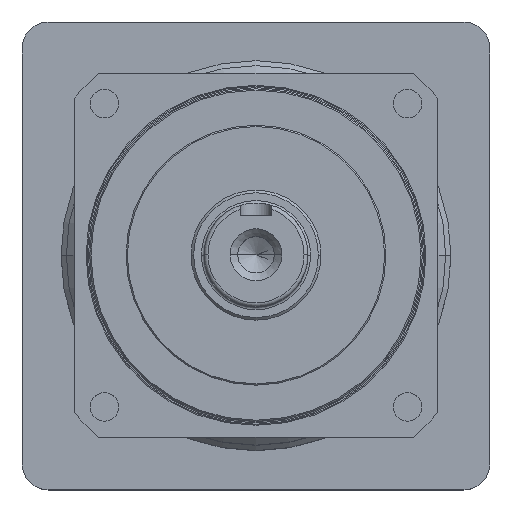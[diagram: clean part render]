
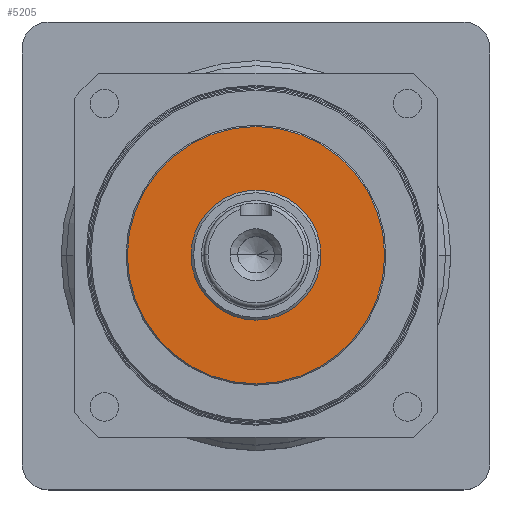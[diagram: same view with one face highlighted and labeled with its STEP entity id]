
A CAD part, top view. The second image highlights one B-rep face of the part: STEP entity #5205.
In plain terms, the highlighted planar face has unit normal (0, 0, 1).
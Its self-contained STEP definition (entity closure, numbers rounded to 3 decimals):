
#9 = DIRECTION ( 'NONE',  ( 0., 0., 1. ) ) ;
#715 = FACE_BOUND ( 'NONE', #3880, .T. ) ;
#822 = CARTESIAN_POINT ( 'NONE',  ( 0., 0., 41. ) ) ;
#1159 = DIRECTION ( 'NONE',  ( 1., 0., 0. ) ) ;
#1310 = CARTESIAN_POINT ( 'NONE',  ( 0., 0., 41. ) ) ;
#1319 = VERTEX_POINT ( 'NONE', #3957 ) ;
#1568 = AXIS2_PLACEMENT_3D ( 'NONE', #1310, #2724, #5424 ) ;
#1771 = DIRECTION ( 'NONE',  ( 0., 0., 1. ) ) ;
#1824 = CARTESIAN_POINT ( 'NONE',  ( 0., 0., 41. ) ) ;
#1856 = FACE_OUTER_BOUND ( 'NONE', #5915, .T. ) ;
#2198 = EDGE_CURVE ( 'NONE', #1319, #3922, #4513, .T. ) ;
#2578 = ORIENTED_EDGE ( 'NONE', *, *, #4733, .F. ) ;
#2724 = DIRECTION ( 'NONE',  ( 0., 0., 1. ) ) ;
#2804 = DIRECTION ( 'NONE',  ( 1., 0., 0. ) ) ;
#2940 = AXIS2_PLACEMENT_3D ( 'NONE', #5888, #3131, #3594 ) ;
#3050 = AXIS2_PLACEMENT_3D ( 'NONE', #4876, #4833, #1159 ) ;
#3070 = ORIENTED_EDGE ( 'NONE', *, *, #4766, .T. ) ;
#3131 = DIRECTION ( 'NONE',  ( 0., 0., 1. ) ) ;
#3594 = DIRECTION ( 'NONE',  ( 1., 0., 0. ) ) ;
#3880 = EDGE_LOOP ( 'NONE', ( #5821, #2578 ) ) ;
#3922 = VERTEX_POINT ( 'NONE', #4890 ) ;
#3957 = CARTESIAN_POINT ( 'NONE',  ( 49.5, 0., 41. ) ) ;
#4122 = VERTEX_POINT ( 'NONE', #5437 ) ;
#4340 = CIRCLE ( 'NONE', #5579, 49.5 ) ;
#4487 = CIRCLE ( 'NONE', #4967, 25. ) ;
#4505 = PLANE ( 'NONE',  #1568 ) ;
#4513 = CIRCLE ( 'NONE', #3050, 49.5 ) ;
#4733 = EDGE_CURVE ( 'NONE', #4928, #4122, #4487, .T. ) ;
#4747 = EDGE_CURVE ( 'NONE', #4122, #4928, #5628, .T. ) ;
#4766 = EDGE_CURVE ( 'NONE', #3922, #1319, #4340, .T. ) ;
#4815 = CARTESIAN_POINT ( 'NONE',  ( 25., 0., 41. ) ) ;
#4833 = DIRECTION ( 'NONE',  ( 0., 0., 1. ) ) ;
#4876 = CARTESIAN_POINT ( 'NONE',  ( 0., 0., 41. ) ) ;
#4890 = CARTESIAN_POINT ( 'NONE',  ( -49.5, 0., 41. ) ) ;
#4928 = VERTEX_POINT ( 'NONE', #4815 ) ;
#4967 = AXIS2_PLACEMENT_3D ( 'NONE', #822, #1771, #4968 ) ;
#4968 = DIRECTION ( 'NONE',  ( 1., 0., 0. ) ) ;
#5205 = ADVANCED_FACE ( 'NONE', ( #715, #1856 ), #4505, .T. ) ;
#5424 = DIRECTION ( 'NONE',  ( 1., 0., 0. ) ) ;
#5437 = CARTESIAN_POINT ( 'NONE',  ( -25., 0., 41. ) ) ;
#5579 = AXIS2_PLACEMENT_3D ( 'NONE', #1824, #9, #2804 ) ;
#5628 = CIRCLE ( 'NONE', #2940, 25. ) ;
#5821 = ORIENTED_EDGE ( 'NONE', *, *, #4747, .F. ) ;
#5888 = CARTESIAN_POINT ( 'NONE',  ( 0., 0., 41. ) ) ;
#5915 = EDGE_LOOP ( 'NONE', ( #3070, #5918 ) ) ;
#5918 = ORIENTED_EDGE ( 'NONE', *, *, #2198, .T. ) ;
